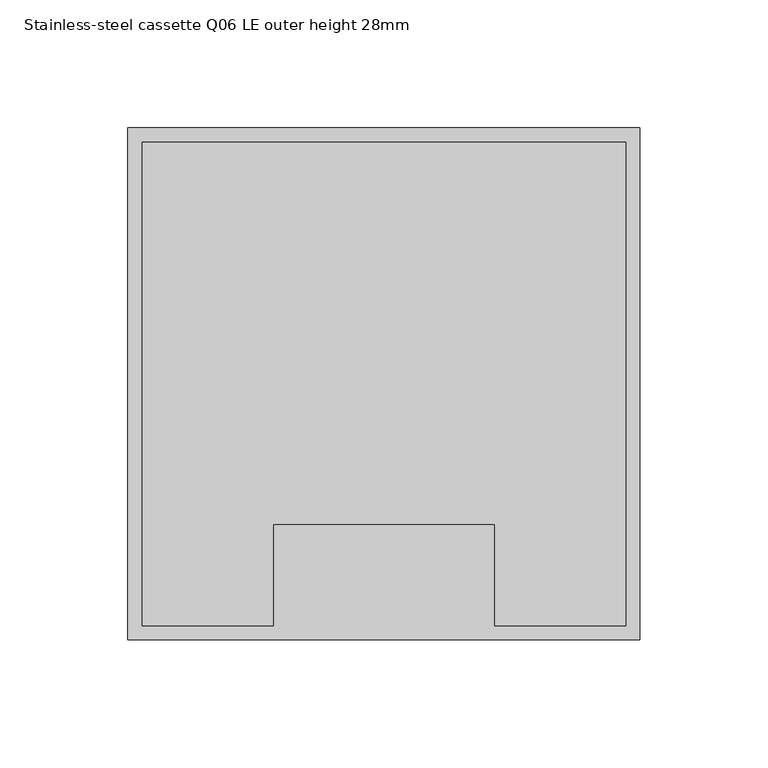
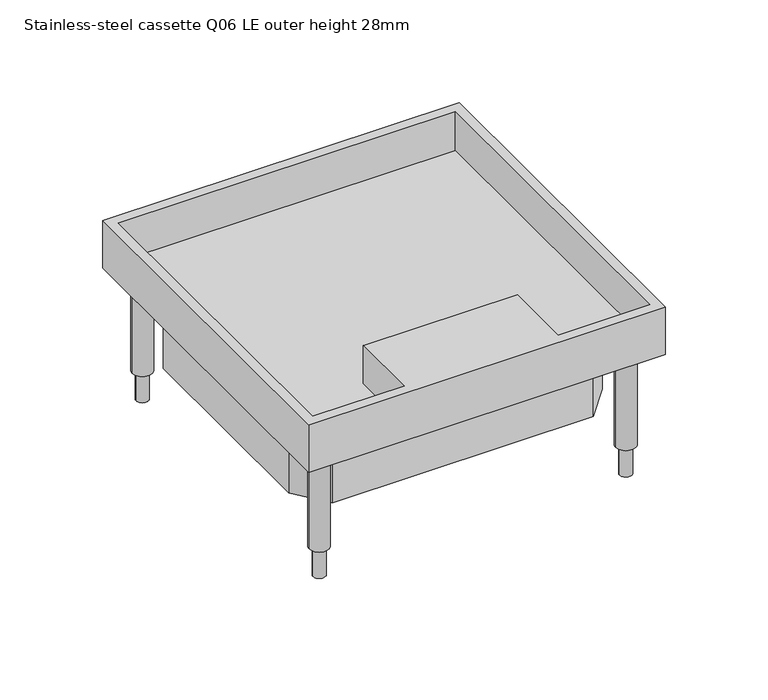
"""IFC4 building model written with IfcOpenShell, lengths in millimetres: proxy geometry, Electrical_Installation_Hager_VE-EE_EKQ-Height-adjustable-stainless-steel-cassette-with-cable-outlet-square-for-dry-cleaned-floors : Stainless-steel cassette Q06 LE outer height 28mm."""

import ifcopenshell
import ifcopenshell.guid

model = None  # the IFC model being written
_history = None  # IfcOwnerHistory: only IFC2X3 demands one
_inside = {}  # id of a spatial element -> (the spatial element, [elements in it])
_under = {}  # id of a project, library or spatial element -> (it, [spatial elements below it])
_declared = {}  # id of a project -> (the project, [libraries it declares])
_typed = {}  # id of a type object -> (the type object, [elements of that type])
_made_of = {}  # id of a material, layer set ... -> (it, [elements and type objects made of it])


def new_model(schema):
    """Start an empty IFC model of exactly this schema.

    Asked for "IFC4X3", IfcOpenShell would pick the latest addendum, in which some entities
    have other attributes; the version numbers below select the first issue.
    IFC2X3 requires an IfcOwnerHistory on every rooted entity: one is made here for all.
    """
    global model, _history
    if schema == "IFC4X3":
        model = ifcopenshell.file(schema_version=(4, 3, 0, 0))
    else:
        model = ifcopenshell.file(schema=schema)
    _inside.clear()
    _under.clear()
    _declared.clear()
    _typed.clear()
    _made_of.clear()
    _history = None
    if model.schema == "IFC2X3":
        org = make("IfcOrganization", Name="unknown")
        user = make(
            "IfcPersonAndOrganization",
            ThePerson=make("IfcPerson", FamilyName="unknown"),
            TheOrganization=org,
        )
        app = make(
            "IfcApplication",
            ApplicationDeveloper=org,
            Version="unknown",
            ApplicationFullName="unknown",
            ApplicationIdentifier="unknown",
        )
        _history = make(
            "IfcOwnerHistory",
            OwningUser=user,
            OwningApplication=app,
            ChangeAction="ADDED",
            CreationDate=0,
        )
    return model


def make(cls, **values):
    """One entity of the class cls with the attributes given. An attribute that is None is left unset."""
    return model.create_entity(
        cls, **{name: value for name, value in values.items() if value is not None}
    )


def rooted(cls, **values):
    """An entity with a GlobalId (a new one), such as an element, a storey or a relation."""
    return make(cls, GlobalId=ifcopenshell.guid.new(), OwnerHistory=_history, **values)


def si_unit(unit_type, name, prefix=None):
    """IfcSIUnit, for example si_unit("LENGTHUNIT", "METRE", prefix="MILLI")."""
    return make("IfcSIUnit", UnitType=unit_type, Prefix=prefix, Name=name)


def assignment(units):
    """IfcUnitAssignment: the units of a project."""
    return None if units is None else make("IfcUnitAssignment", Units=units)


def point(xyz):
    """IfcCartesianPoint."""
    return None if xyz is None else make("IfcCartesianPoint", Coordinates=xyz)


def direction(xyz):
    """IfcDirection."""
    return None if xyz is None else make("IfcDirection", DirectionRatios=xyz)


def frame(location, z_axis=None, x_axis=None):
    """IfcAxis2Placement3D, a coordinate frame: its origin and axes. An axis left out is left unset."""
    return make(
        "IfcAxis2Placement3D",
        Location=point(location),
        Axis=direction(z_axis),
        RefDirection=direction(x_axis),
    )


def frame_2d(location, x_axis=None):
    """IfcAxis2Placement2D, a coordinate frame in the plane: its origin and x axis."""
    return make(
        "IfcAxis2Placement2D", Location=point(location), RefDirection=direction(x_axis)
    )


def origin():
    """The frame at (0, 0, 0) with its axes left unset."""
    return frame((0.0, 0.0, 0.0))


def place(relative_to, where):
    """IfcLocalPlacement: puts the frame where relative to a parent placement (None: the world)."""
    return make(
        "IfcLocalPlacement", PlacementRelTo=relative_to, RelativePlacement=where
    )


def context(
    kind, dimensions, precision=None, world=None, true_north=None, identifier=None
):
    """IfcGeometricRepresentationContext, for example the 3D "Model" context."""
    return make(
        "IfcGeometricRepresentationContext",
        ContextIdentifier=identifier,
        ContextType=kind,
        CoordinateSpaceDimension=dimensions,
        Precision=precision,
        WorldCoordinateSystem=world,
        TrueNorth=true_north,
    )


def project(units=None, contexts=None):
    """IfcProject with its units and contexts."""
    return rooted(
        "IfcProject",
        Name="project",
        RepresentationContexts=contexts,
        UnitsInContext=assignment(units),
    )


def spatial(cls, under=None, at=None, **own):
    """A site, building, storey or space (cls), placed at a placement, below another one or the project."""
    s = rooted(cls, ObjectPlacement=at, **own)
    if under is not None:
        _under.setdefault(under.id(), (under, []))[1].append(s)
    return s


def polyline(points):
    """IfcPolyline through the points."""
    return make("IfcPolyline", Points=[point(p) for p in points])


def circle_curve(where, radius):
    """IfcCircle in the frame where."""
    return make("IfcCircle", Position=where, Radius=radius)


def trimmed(basis, trim1, trim2, sense, master):
    """IfcTrimmedCurve: the piece of a basis curve between two trims."""
    return make(
        "IfcTrimmedCurve",
        BasisCurve=basis,
        Trim1=trim1,
        Trim2=trim2,
        SenseAgreement=sense,
        MasterRepresentation=master,
    )


def segment(curve, same_sense, transition):
    """IfcCompositeCurveSegment."""
    return make(
        "IfcCompositeCurveSegment",
        Transition=transition,
        SameSense=same_sense,
        ParentCurve=curve,
    )


def composite_curve(segments, self_intersect=None):
    """IfcCompositeCurve: segments joined end to end."""
    return make("IfcCompositeCurve", Segments=segments, SelfIntersect=self_intersect)


def outline(outer, holes=None, kind="AREA"):
    """IfcArbitraryClosedProfileDef: a profile drawn as a closed curve; with holes, ...WithVoids."""
    if holes is None:
        return make("IfcArbitraryClosedProfileDef", ProfileType=kind, OuterCurve=outer)
    return make(
        "IfcArbitraryProfileDefWithVoids",
        ProfileType=kind,
        OuterCurve=outer,
        InnerCurves=holes,
    )


def extrude(swept, where, along, depth):
    """IfcExtrudedAreaSolid: the profile swept, set in the frame where, extruded along a direction by depth."""
    return make(
        "IfcExtrudedAreaSolid",
        SweptArea=swept,
        Position=where,
        ExtrudedDirection=direction(along),
        Depth=depth,
    )


def shape(context_of_items, identifier, shape_type, items):
    """IfcShapeRepresentation: the items that make up one representation, for example the "Body"."""
    return make(
        "IfcShapeRepresentation",
        ContextOfItems=context_of_items,
        RepresentationIdentifier=identifier,
        RepresentationType=shape_type,
        Items=items,
    )


def source(mapping_origin, context_of_items, identifier, shape_type, items):
    """IfcRepresentationMap: a shape defined once, which mapped items show again and again."""
    return make(
        "IfcRepresentationMap",
        MappingOrigin=mapping_origin,
        MappedRepresentation=shape(context_of_items, identifier, shape_type, items),
    )


def transform(
    local_origin,
    x_axis=None,
    y_axis=None,
    z_axis=None,
    scale=None,
    scale2=None,
    scale3=None,
    uniform=True,
):
    """IfcCartesianTransformationOperator3D, or its non-uniform kind. x_axis, y_axis, z_axis: its Axis1, 2, 3."""
    if uniform:
        return make(
            "IfcCartesianTransformationOperator3D",
            Axis1=direction(x_axis),
            Axis2=direction(y_axis),
            LocalOrigin=point(local_origin),
            Scale=scale,
            Axis3=direction(z_axis),
        )
    return make(
        "IfcCartesianTransformationOperator3DnonUniform",
        Axis1=direction(x_axis),
        Axis2=direction(y_axis),
        LocalOrigin=point(local_origin),
        Scale=scale,
        Axis3=direction(z_axis),
        Scale2=scale2,
        Scale3=scale3,
    )


def mapped(mapping_source, mapping_target):
    """IfcMappedItem: shows the shape of a source again, moved by a transform."""
    return make(
        "IfcMappedItem", MappingSource=mapping_source, MappingTarget=mapping_target
    )


def made_of(thing, what):
    """Note that an element or type object is made of a material, layer set ...; save() writes the relation."""
    if what is not None:
        _made_of.setdefault(what.id(), (what, []))[1].append(thing)
    return thing


def element(
    cls,
    number,
    at=None,
    inside=None,
    cuts=None,
    type_object=None,
    material=None,
    context=None,
    identifier="Body",
    shape_type=None,
    held_by="IfcProductDefinitionShape",
    body=None,
    shapes=None,
    **own,
):
    """One element of the class cls, such as IfcWall. Its Tag is "e" and its number.

    at: its placement. inside: the storey or other place that contains it. cuts: it is an
    opening in that element (IfcRelVoidsElement). A single representation is given by context,
    identifier, shape_type and body (its items); several are given by shapes. held_by: the class
    of the entity that holds the representations. save() writes the other relations.
    """
    e = rooted(cls, Tag="e%d" % number, ObjectPlacement=at, **own)
    if body is not None:
        shapes = [shape(context, identifier, shape_type, body)]
    if shapes is not None:
        e.Representation = make(held_by, Representations=shapes)
    if inside is not None:
        _inside.setdefault(inside.id(), (inside, []))[1].append(e)
    if cuts is not None:
        rooted(
            "IfcRelVoidsElement", RelatingBuildingElement=cuts, RelatedOpeningElement=e
        )
    if type_object is not None:
        _typed.setdefault(type_object.id(), (type_object, []))[1].append(e)
    return made_of(e, material)


def aggregate(whole, parts):
    """IfcRelAggregates: a whole, such as a stair, and the parts it consists of."""
    return rooted("IfcRelAggregates", RelatingObject=whole, RelatedObjects=parts)


def save(model, path):
    """Write the relations noted so far, then the file.

    IfcRelAggregates (storeys below a building ...), IfcRelContainedInSpatialStructure (elements
    in a storey), IfcRelDefinesByType, IfcRelAssociatesMaterial and IfcRelDeclares: one each for
    every whole, place, type object, material and project.
    """
    for whole, parts in _under.values():
        aggregate(whole, parts)
    for where, things in _inside.values():
        rooted(
            "IfcRelContainedInSpatialStructure",
            RelatedElements=things,
            RelatingStructure=where,
        )
    for kind, things in _typed.values():
        rooted("IfcRelDefinesByType", RelatedObjects=things, RelatingType=kind)
    for what, things in _made_of.values():
        rooted("IfcRelAssociatesMaterial", RelatedObjects=things, RelatingMaterial=what)
    for by, libraries in _declared.values():
        rooted("IfcRelDeclares", RelatingContext=by, RelatedDefinitions=libraries)
    model.write(path)


def stainless_steel_cassette_q06_le_outer_height_28mm_edae0cbb(model_context):
    return source(origin(), model_context, "Body", "SweptSolid", [
        extrude(outline(composite_curve([segment(trimmed(circle_curve(frame_2d((-86.0, 86.0)), 3.5), [point((-89.5, 86.0))], [point((-82.5, 86.0))], False, "CARTESIAN"), True, "CONTINUOUS"), segment(trimmed(circle_curve(frame_2d((-86.0, 86.0)), 3.5), [point((-82.5, 86.0))], [point((-89.5, 86.0))], False, "CARTESIAN"), True, "CONTINUOUS")], self_intersect=False)), frame((0.0, 0.0, -100.0), z_axis=(0.0, 0.0, 1.0), x_axis=(1.0, 0.0, 0.0)), (0.0, 0.0, 1.0), 17.0011554),
        extrude(outline(composite_curve([segment(trimmed(circle_curve(frame_2d((86.0, 86.0)), 3.5), [point((82.5, 86.0))], [point((89.5, 86.0))], False, "CARTESIAN"), True, "CONTINUOUS"), segment(trimmed(circle_curve(frame_2d((86.0, 86.0)), 3.5), [point((89.5, 86.0))], [point((82.5, 86.0))], False, "CARTESIAN"), True, "CONTINUOUS")], self_intersect=False)), frame((0.0, 0.0, -100.0), z_axis=(0.0, 0.0, 1.0), x_axis=(1.0, 0.0, 0.0)), (0.0, 0.0, 1.0), 17.0011554),
        extrude(outline(composite_curve([segment(trimmed(circle_curve(frame_2d((86.0, -86.0)), 3.523354), [point((82.476646, -86.0))], [point((89.523354, -86.0))], False, "CARTESIAN"), True, "CONTINUOUS"), segment(trimmed(circle_curve(frame_2d((86.0, -86.0)), 3.523354), [point((89.523354, -86.0))], [point((82.476646, -86.0))], False, "CARTESIAN"), True, "CONTINUOUS")], self_intersect=False)), frame((0.0, 0.0, -100.0), z_axis=(0.0, 0.0, 1.0), x_axis=(1.0, 0.0, 0.0)), (0.0, 0.0, 1.0), 17.0011554),
        extrude(outline(composite_curve([segment(trimmed(circle_curve(frame_2d((-86.0, -86.0)), 3.5), [point((-89.5, -86.0))], [point((-82.5, -86.0))], False, "CARTESIAN"), True, "CONTINUOUS"), segment(trimmed(circle_curve(frame_2d((-86.0, -86.0)), 3.5), [point((-82.5, -86.0))], [point((-89.5, -86.0))], False, "CARTESIAN"), True, "CONTINUOUS")], self_intersect=False)), frame((0.0, 0.0, -100.0), z_axis=(0.0, 0.0, 1.0), x_axis=(1.0, 0.0, 0.0)), (0.0, 0.0, 1.0), 17.0011554),
        extrude(outline(polyline([(4.7, 77.5), (73.3639966, 77.5), (88.0, 60.5470649), (88.0, -59.6394213), (72.7984665, -77.5), (-73.867755, -77.5), (-88.0, -59.6801256), (-88.0, 62.043544), (-73.6272863, 77.5), (4.7, 77.5)]), holes=[polyline([(-85.0, 60.8642535), (-85.0, -58.634929), (-72.4180331, -74.5), (71.4123304, -74.5), (85.0, -58.5355815), (85.0, 59.4312235), (71.9906502, 74.5), (4.7, 74.5), (-72.3203352, 74.5), (-85.0, 60.8642535)])]), frame((0.0, 0.0, -67.0), z_axis=(0.0, 0.0, 1.0), x_axis=(1.0, 0.0, 0.0)), (0.0, 0.0, 1.0), 41.0),
        extrude(outline(polyline([(94.5, 94.5), (94.5, -94.5), (-94.5, -94.5), (-94.5, 94.5), (94.5, 94.5)])), frame((0.0, 0.0, -26.0), z_axis=(0.0, 0.0, 1.0), x_axis=(1.0, 0.0, 0.0)), (0.0, 0.0, 1.0), 5.0),
        extrude(outline(composite_curve([segment(trimmed(circle_curve(frame_2d((-86.0, 86.0)), 5.5), [point((-91.5, 86.0))], [point((-80.5, 86.0))], False, "CARTESIAN"), True, "CONTINUOUS"), segment(trimmed(circle_curve(frame_2d((-86.0, 86.0)), 5.5), [point((-80.5, 86.0))], [point((-91.5, 86.0))], False, "CARTESIAN"), True, "CONTINUOUS")], self_intersect=False)), frame((0.0, 0.0, -82.9988446), z_axis=(0.0, 0.0, 1.0), x_axis=(1.0, 0.0, 0.0)), (0.0, 0.0, 1.0), 56.9988446),
        extrude(outline(composite_curve([segment(trimmed(circle_curve(frame_2d((86.0, 86.0)), 5.5), [point((80.5, 86.0))], [point((91.5, 86.0))], False, "CARTESIAN"), True, "CONTINUOUS"), segment(trimmed(circle_curve(frame_2d((86.0, 86.0)), 5.5), [point((91.5, 86.0))], [point((80.5, 86.0))], False, "CARTESIAN"), True, "CONTINUOUS")], self_intersect=False)), frame((0.0, 0.0, -82.9988446), z_axis=(0.0, 0.0, 1.0), x_axis=(1.0, 0.0, 0.0)), (0.0, 0.0, 1.0), 56.9988446),
        extrude(outline(composite_curve([segment(trimmed(circle_curve(frame_2d((-86.0, -86.0)), 5.5), [point((-91.5, -86.0))], [point((-80.5, -86.0))], False, "CARTESIAN"), True, "CONTINUOUS"), segment(trimmed(circle_curve(frame_2d((-86.0, -86.0)), 5.5), [point((-80.5, -86.0))], [point((-91.5, -86.0))], False, "CARTESIAN"), True, "CONTINUOUS")], self_intersect=False)), frame((0.0, 0.0, -82.9988446), z_axis=(0.0, 0.0, 1.0), x_axis=(1.0, 0.0, 0.0)), (0.0, 0.0, 1.0), 56.9988446),
        extrude(outline(composite_curve([segment(trimmed(circle_curve(frame_2d((86.0, -86.0)), 5.5), [point((80.5, -86.0))], [point((91.5, -86.0))], False, "CARTESIAN"), True, "CONTINUOUS"), segment(trimmed(circle_curve(frame_2d((86.0, -86.0)), 5.5), [point((91.5, -86.0))], [point((80.5, -86.0))], False, "CARTESIAN"), True, "CONTINUOUS")], self_intersect=False)), frame((0.0, 0.0, -82.9988446), z_axis=(0.0, 0.0, 1.0), x_axis=(1.0, 0.0, 0.0)), (0.0, 0.0, 1.0), 56.9988446),
        extrude(outline(polyline([(100.0, 100.0), (100.0, -100.0), (-100.0, -100.0), (-100.0, 100.0), (100.0, 100.0)]), holes=[polyline([(94.5, 94.5), (-94.5, 94.5), (-94.5, -94.5), (-43.3360621, -94.5), (-43.3360621, -54.863938), (43.3360621, -54.863938), (43.3360621, -94.5), (94.5, -94.5), (94.5, 94.5)])]), frame((0.0, 0.0, -26.0), z_axis=(0.0, 0.0, 1.0), x_axis=(1.0, 0.0, 0.0)), (0.0, 0.0, 1.0), 28.0),
    ])


if __name__ == "__main__":
    model = new_model("IFC4")
    model_context = context("Model", 3, world=origin())
    ifc_project = project(units=[si_unit("LENGTHUNIT", "METRE", prefix="MILLI")], contexts=[model_context])
    site = spatial("IfcSite", under=ifc_project)
    building = spatial("IfcBuilding", under=site)
    placement = place(None, origin())
    stainless_steel_cassette_q06_le_outer_height_28mm_shape = stainless_steel_cassette_q06_le_outer_height_28mm_edae0cbb(model_context)
    element("IfcBuildingElementProxy", 1, Name="Electrical_Installation_Hager_VE-EE_EKQ-Height-adjustable-stainless-steel-cassette-with-cable-outlet-square-for-dry-cleaned-floors : Stainless-steel cassette Q06 LE outer height 28mm", ObjectType="Electrical_Installation_Hager_VE-EE_EKQ-Height-adjustable-stainless-steel-cassette-with-cable-outlet-square-for-dry-cleaned-floors : Stainless-steel cassette Q06 LE outer height 28mm", at=placement, inside=building, context=model_context, shape_type="MappedRepresentation", body=[
        mapped(stainless_steel_cassette_q06_le_outer_height_28mm_shape, transform((0.0, 0.0, 0.0), x_axis=(1.0, 0.0, 0.0), y_axis=(0.0, 1.0, 0.0), z_axis=(0.0, 0.0, 1.0))),
    ])
    save(model, "model.ifc")
